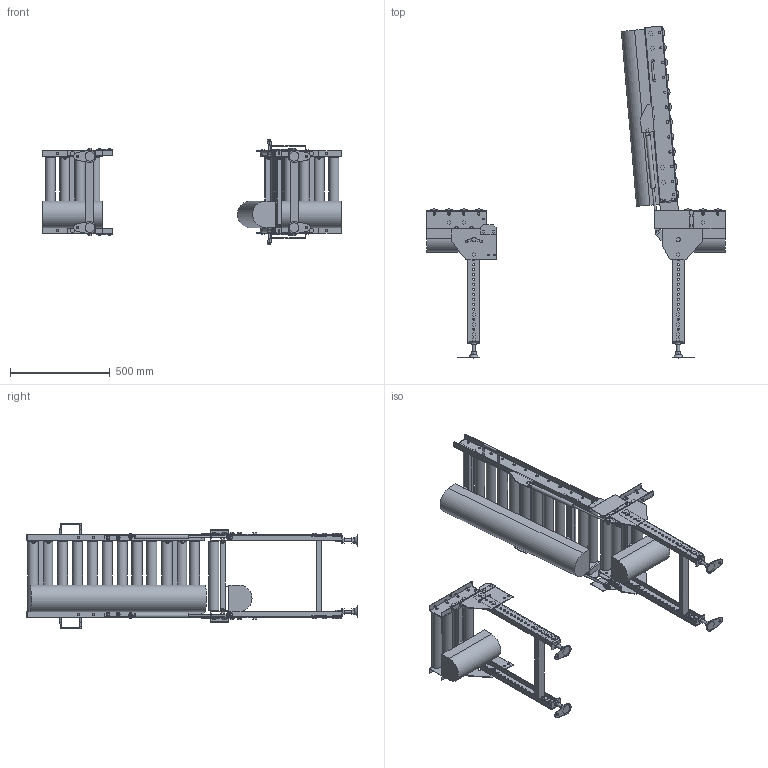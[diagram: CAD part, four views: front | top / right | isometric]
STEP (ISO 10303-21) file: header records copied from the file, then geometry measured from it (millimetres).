
FILE_DESCRIPTION( (''), '2;1');
FILE_NAME ('WEB-MCD50-355-75-90-R-HU.stp','2025-07-01T16:01:17',(''),(''),'spGate 20.6.2 (****-****-****-****)','','');
FILE_SCHEMA (('AUTOMOTIVE_DESIGN'));
Length unit declared in the file: millimetre
Products named in the file (26): WEB-MCD50-355-75-90-R-HU; TEMP_X_T-prt0; TEMP_X_T-prt1; TEMP_X_T-prt2; TEMP_X_T-prt3; TEMP_X_T-prt4; TEMP_X_T-prt5; TEMP_X_T-prt6; TEMP_X_T-prt7; TEMP_X_T-prt8; TEMP_X_T-prt9; TEMP_X_T-prt10; TEMP_X_T-prt11; TEMP_X_T-prt12; TEMP_X_T-prt13; TEMP_X_T-prt14; TEMP_X_T-prt15; TEMP_X_T-prt16; TEMP_X_T-prt17; TEMP_X_T-prt18; TEMP_X_T-prt19; TEMP_X_T-prt20; TEMP_X_T-prt21; TEMP_X_T-prt22; TEMP_X_T-prt23; TEMP_X_T-prt24
Assembly tree (25 placements, depth 2):
  WEB-MCD50-355-75-90-R-HU
    TEMP_X_T-prt0
    TEMP_X_T-prt1
    TEMP_X_T-prt2
    TEMP_X_T-prt3
    TEMP_X_T-prt4
    TEMP_X_T-prt5
    TEMP_X_T-prt6
    TEMP_X_T-prt7
    TEMP_X_T-prt8
    TEMP_X_T-prt9
    TEMP_X_T-prt10
    TEMP_X_T-prt11
    TEMP_X_T-prt12
    TEMP_X_T-prt13
    TEMP_X_T-prt14
    TEMP_X_T-prt15
    TEMP_X_T-prt16
    TEMP_X_T-prt17
    TEMP_X_T-prt18
    TEMP_X_T-prt19
    TEMP_X_T-prt20
    TEMP_X_T-prt21
    TEMP_X_T-prt22
    TEMP_X_T-prt23
    TEMP_X_T-prt24
Bounding box: 1500 x 1665.85 x 531.39 mm (x, y, z)
Volume: 39877567.6 mm3; surface area: 4196802.4 mm2
Topology: 25 solids, 51 shells, 2618 faces, 6646 edges, 4379 vertices
Faces by surface type: plane 2139, cylinder 461, bspline 18
Full cylindrical faces by diameter (mm): 8 x8, 8.5 x8, 9 x20, 10 x58, 10.5 x96, 11 x8, 12 x42, 13 x12, 14 x4, 15 x6, 15.4 x2, 15.7 x2, 16 x10, 17 x4, 18 x6, 18.4 x28, 18.5 x8, 21 x12, 22 x2, 50.8 x20
Entity records: 134576 total; most frequent: CARTESIAN_POINT 15161, DIRECTION 13440, ORIENTED_EDGE 13292, COLOUR_RGB 9289, PRESENTATION_STYLE_ASSIGNMENT 9289, STYLED_ITEM 9289, EDGE_CURVE 6646, DRAUGHTING_PRE_DEFINED_CURVE_FONT 6646
